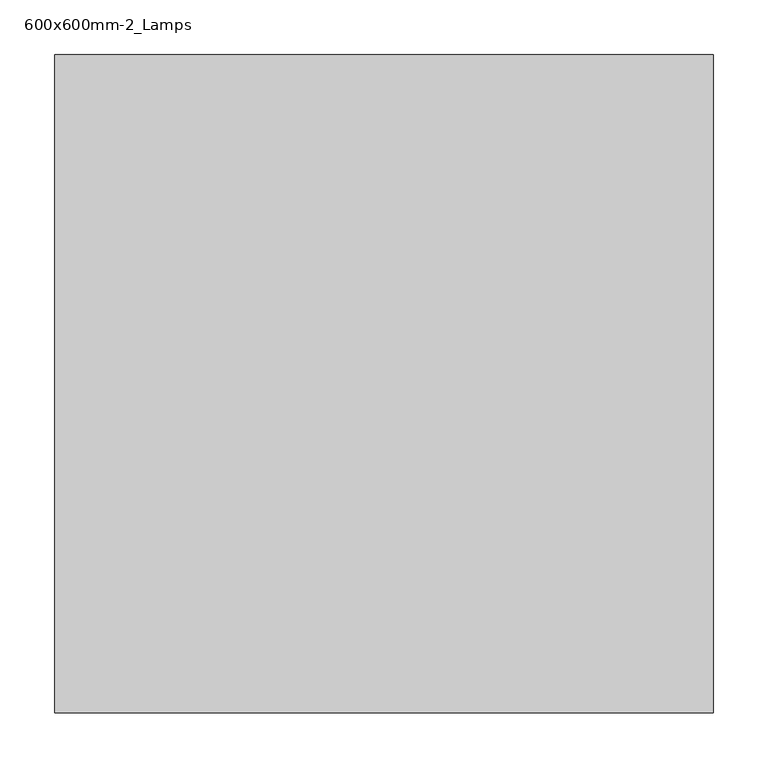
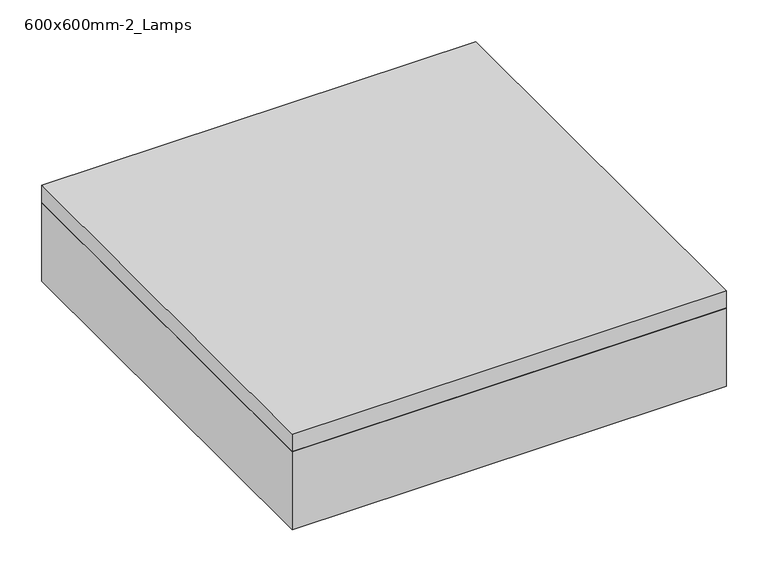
"""IFC4 building model written with IfcOpenShell, lengths in millimetres: light fixture geometry, BIMHealth-Ceiling_Light-Non_Maintained-Emergency-LOD2A-v1 : 600x600mm-2_Lamps."""

from ifc_helpers import new_model, si_unit, frame, origin, place, context, project, spatial, polyline, outline, extrude, source, transform, mapped, element, save


def light_fixture_600x600mm_2_lamps_0dee724d(model_context):
    return source(origin(), model_context, "Body", "SweptSolid", [
        extrude(outline(polyline([(260.6964984, 219.9340679), (260.6964984, -338.8659321), (-298.1035016, -338.8659321), (-298.1035016, 219.9340679), (260.6964984, 219.9340679)]), holes=[polyline([(-113.9535016, 35.7840679), (-113.9535016, 213.5840679), (-291.7535016, 213.5840679), (-291.7535016, 35.7840679), (-113.9535016, 35.7840679)]), polyline([(-113.9535016, -148.3659321), (-113.9535016, 29.4340679), (-291.7535016, 29.4340679), (-291.7535016, -148.3659321), (-113.9535016, -148.3659321)]), polyline([(-113.9535016, -154.7159321), (-291.7535016, -154.7159321), (-291.7535016, -332.5159321), (-113.9535016, -332.5159321), (-113.9535016, -154.7159321)]), polyline([(70.1964984, 35.7840679), (70.1964984, 213.5840679), (-107.6035016, 213.5840679), (-107.6035016, 35.7840679), (70.1964984, 35.7840679)]), polyline([(70.1964984, -148.3659321), (70.1964984, 29.4340679), (-107.6035016, 29.4340679), (-107.6035016, -148.3659321), (70.1964984, -148.3659321)]), polyline([(70.1964984, -154.7159321), (-107.6035016, -154.7159321), (-107.6035016, -332.5159321), (70.1964984, -332.5159321), (70.1964984, -154.7159321)]), polyline([(254.3464984, 35.7840679), (254.3464984, 213.5840679), (76.5464984, 213.5840679), (76.5464984, 35.7840679), (254.3464984, 35.7840679)]), polyline([(254.3464984, -148.3659321), (254.3464984, 29.4340679), (76.5464984, 29.4340679), (76.5464984, -148.3659321), (254.3464984, -148.3659321)]), polyline([(254.3464984, -154.7159321), (76.5464984, -154.7159321), (76.5464984, -332.5159321), (254.3464984, -332.5159321), (254.3464984, -154.7159321)])]), frame((0.0, 0.0, 2438.4), z_axis=(0.0, 0.0, 1.0), x_axis=(1.0, 0.0, 0.0)), (0.0, 0.0, 1.0), 3.175),
        extrude(outline(polyline([(251.0964984, 219.9340679), (251.0964984, -329.2659321), (-298.1035016, -329.2659321), (-298.1035016, 219.9340679), (251.0964984, 219.9340679)])), frame((0.0, 0.0, 2514.6), z_axis=(0.0, 0.0, 1.0), x_axis=(1.0, 0.0, 0.0)), (0.0, 0.0, 1.0), 6.35),
        extrude(outline(polyline([(260.6964984, 219.9340679), (260.6964984, -338.8659321), (-298.1035016, -338.8659321), (-298.1035016, 219.9340679), (260.6964984, 219.9340679)]), holes=[polyline([(-113.9535016, 35.7840679), (-113.9535016, 213.5840679), (-291.7535016, 213.5840679), (-291.7535016, 35.7840679), (-113.9535016, 35.7840679)]), polyline([(-113.9535016, -148.3659321), (-113.9535016, 29.4340679), (-291.7535016, 29.4340679), (-291.7535016, -148.3659321), (-113.9535016, -148.3659321)]), polyline([(-113.9535016, -154.7159321), (-291.7535016, -154.7159321), (-291.7535016, -332.5159321), (-113.9535016, -332.5159321), (-113.9535016, -154.7159321)]), polyline([(70.1964984, 35.7840679), (70.1964984, 213.5840679), (-107.6035016, 213.5840679), (-107.6035016, 35.7840679), (70.1964984, 35.7840679)]), polyline([(70.1964984, -148.3659321), (70.1964984, 29.4340679), (-107.6035016, 29.4340679), (-107.6035016, -148.3659321), (70.1964984, -148.3659321)]), polyline([(70.1964984, -154.7159321), (-107.6035016, -154.7159321), (-107.6035016, -332.5159321), (70.1964984, -332.5159321), (70.1964984, -154.7159321)]), polyline([(254.3464984, 35.7840679), (254.3464984, 213.5840679), (76.5464984, 213.5840679), (76.5464984, 35.7840679), (254.3464984, 35.7840679)]), polyline([(254.3464984, -148.3659321), (254.3464984, 29.4340679), (76.5464984, 29.4340679), (76.5464984, -148.3659321), (254.3464984, -148.3659321)]), polyline([(254.3464984, -154.7159321), (76.5464984, -154.7159321), (76.5464984, -332.5159321), (254.3464984, -332.5159321), (254.3464984, -154.7159321)])]), frame((0.0, 0.0, 2441.575), z_axis=(0.0, 0.0, 1.0), x_axis=(1.0, 0.0, 0.0)), (0.0, 0.0, 1.0), 47.625),
        extrude(outline(polyline([(276.4964984, 245.3340679), (276.4964984, -354.6659321), (-323.5035016, -354.6659321), (-323.5035016, 245.3340679), (276.4964984, 245.3340679)]), holes=[polyline([(251.0964984, 219.9340679), (-298.1035016, 219.9340679), (-298.1035016, -329.2659321), (251.0964984, -329.2659321), (251.0964984, 219.9340679)])]), frame((0.0, 0.0, 2438.4), z_axis=(0.0, 0.0, 1.0), x_axis=(1.0, 0.0, 0.0)), (0.0, 0.0, 1.0), 114.3),
        extrude(outline(polyline([(-104.6234074, -186.9443179), (-104.6234074, 59.2095282), (72.2996696, 59.2095282), (72.2996696, 28.4402975), (-73.8541766, 28.4402975), (-73.8541766, -44.6366256), (64.6073619, -44.6366256), (64.6073619, -75.4058564), (-73.8541766, -75.4058564), (-73.8541766, -156.1750872), (76.1458234, -156.1750872), (76.1458234, -186.9443179), (-104.6234074, -186.9443179)])), frame((0.0, 0.0, 2438.4), z_axis=(0.0, 0.0, 1.0), x_axis=(1.0, 0.0, 0.0)), (0.0, 0.0, 1.0), 2.0),
        extrude(outline(polyline([(276.4964984, 245.3340679), (276.4964984, -354.6659321), (-323.5035016, -354.6659321), (-323.5035016, 245.3340679), (276.4964984, 245.3340679)])), frame((0.0, 0.0, 2552.7), z_axis=(0.0, 0.0, 1.0), x_axis=(1.0, 0.0, 0.0)), (0.0, 0.0, 1.0), 25.4),
    ])


if __name__ == "__main__":
    model = new_model("IFC4")
    model_context = context("Model", 3, world=origin())
    ifc_project = project(units=[si_unit("LENGTHUNIT", "METRE", prefix="MILLI")], contexts=[model_context])
    site = spatial("IfcSite", under=ifc_project)
    building = spatial("IfcBuilding", under=site)
    placement = place(None, origin())
    light_fixture_600x600mm_2_lamps_shape = light_fixture_600x600mm_2_lamps_0dee724d(model_context)
    element("IfcLightFixture", 1, ObjectType="BIMHealth-Ceiling_Light-Non_Maintained-Emergency-LOD2A-v1 : 600x600mm-2_Lamps", at=placement, inside=building, context=model_context, shape_type="MappedRepresentation", body=[
        mapped(light_fixture_600x600mm_2_lamps_shape, transform((0.0, 0.0, 0.0), x_axis=(1.0, 0.0, 0.0), y_axis=(0.0, 1.0, 0.0), z_axis=(0.0, 0.0, 1.0))),
    ])
    save(model, "model.ifc")
